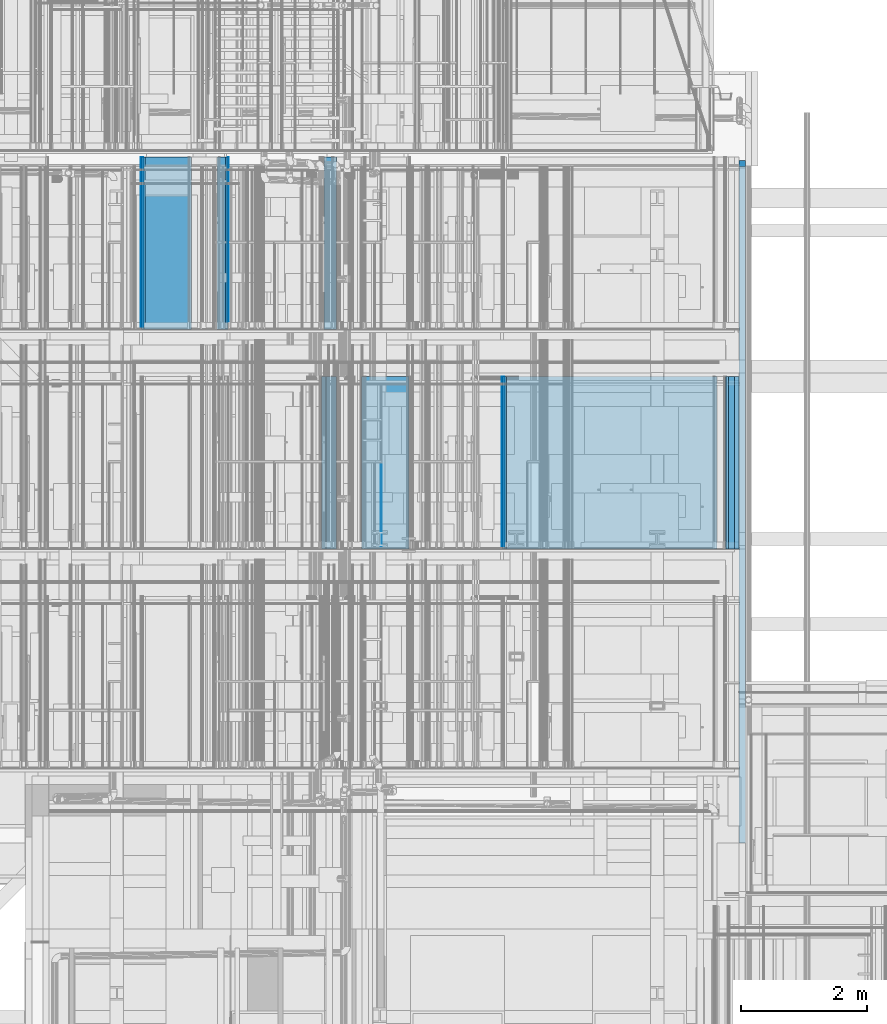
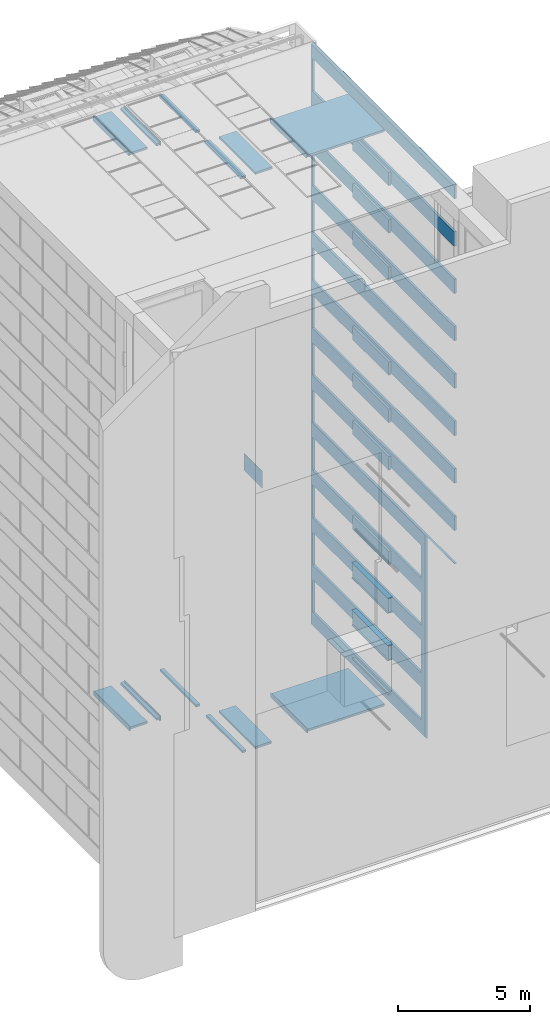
# One storey, part 18 of 583: 45 walls, 12 openings.
"""IFC2X3 building model written with IfcOpenShell, lengths in metres."""

from ifc_helpers import new_model, entity, si_unit, converted_unit, derived_unit, money_unit, direction, frame, frame_2d, origin_with_axes, place, context, subcontext, project, spatial, polyline, rectangle, outline, extrude, material, type_object, element, save


model = new_model("IFC2X3")

# Units and contexts
model_context = context("Model", 3, precision=1e-05, world=origin_with_axes(), true_north=direction((0.0, 1.0)))
body_context = subcontext(model_context, "Body", "Model", "MODEL_VIEW", scale=1.0)
ifc_project = project(units=[si_unit("LENGTHUNIT", "METRE"), si_unit("AREAUNIT", "SQUARE_METRE"), si_unit("VOLUMEUNIT", "CUBIC_METRE"), si_unit("ABSORBEDDOSEUNIT", "GRAY"), si_unit("AMOUNTOFSUBSTANCEUNIT", "MOLE"), si_unit("DOSEEQUIVALENTUNIT", "SIEVERT"), si_unit("ELECTRICCAPACITANCEUNIT", "FARAD"), si_unit("ELECTRICCHARGEUNIT", "COULOMB"), si_unit("ELECTRICCONDUCTANCEUNIT", "SIEMENS"), si_unit("ELECTRICCURRENTUNIT", "AMPERE"), si_unit("ELECTRICRESISTANCEUNIT", "OHM"), si_unit("ELECTRICVOLTAGEUNIT", "VOLT"), si_unit("ENERGYUNIT", "JOULE"), si_unit("FORCEUNIT", "NEWTON"), si_unit("FREQUENCYUNIT", "HERTZ"), si_unit("ILLUMINANCEUNIT", "LUX"), si_unit("INDUCTANCEUNIT", "HENRY"), si_unit("LUMINOUSFLUXUNIT", "LUMEN"), si_unit("LUMINOUSINTENSITYUNIT", "CANDELA"), si_unit("MAGNETICFLUXDENSITYUNIT", "TESLA"), si_unit("MAGNETICFLUXUNIT", "WEBER"), si_unit("MASSUNIT", "GRAM"), converted_unit("PLANEANGLEUNIT", "degree", entity("IfcReal", 0.0174532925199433), si_unit("PLANEANGLEUNIT", "RADIAN"), dimensions=[0, 0, 0, 0, 0, 0, 0]), si_unit("POWERUNIT", "WATT"), si_unit("PRESSUREUNIT", "PASCAL"), si_unit("RADIOACTIVITYUNIT", "BECQUEREL"), si_unit("SOLIDANGLEUNIT", "STERADIAN"), si_unit("THERMODYNAMICTEMPERATUREUNIT", "KELVIN"), si_unit("TIMEUNIT", "SECOND"), derived_unit("ACCELERATIONUNIT", [(si_unit("LENGTHUNIT", "METRE"), 1), (si_unit("TIMEUNIT", "SECOND"), -2)]), derived_unit("ANGULARVELOCITYUNIT", [(converted_unit("PLANEANGLEUNIT", "degree", entity("IfcReal", 0.0174532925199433), si_unit("PLANEANGLEUNIT", "RADIAN"), dimensions=[0, 0, 0, 0, 0, 0, 0]), 1), (si_unit("TIMEUNIT", "SECOND"), -1)]), derived_unit("CURVATUREUNIT", [(converted_unit("PLANEANGLEUNIT", "degree", entity("IfcReal", 0.0174532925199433), si_unit("PLANEANGLEUNIT", "RADIAN"), dimensions=[0, 0, 0, 0, 0, 0, 0]), 1), (si_unit("LENGTHUNIT", "METRE"), -1)]), derived_unit("DYNAMICVISCOSITYUNIT", [(si_unit("PRESSUREUNIT", "PASCAL"), 1), (si_unit("TIMEUNIT", "SECOND"), 1)]), derived_unit("HEATFLUXDENSITYUNIT", [(si_unit("POWERUNIT", "WATT"), 1), (si_unit("LENGTHUNIT", "METRE"), -2)]), derived_unit("HEATINGVALUEUNIT", [(si_unit("ENERGYUNIT", "JOULE"), 1), (si_unit("MASSUNIT", "GRAM"), -1)]), derived_unit("INTEGERCOUNTRATEUNIT", [(si_unit("TIMEUNIT", "SECOND"), -1)]), derived_unit("IONCONCENTRATIONUNIT", [(si_unit("MASSUNIT", "GRAM"), 1), (si_unit("VOLUMEUNIT", "CUBIC_METRE"), -1)]), derived_unit("ISOTHERMALMOISTURECAPACITYUNIT", [(si_unit("VOLUMEUNIT", "CUBIC_METRE"), 1), (si_unit("MASSUNIT", "GRAM"), -1)]), derived_unit("KINEMATICVISCOSITYUNIT", [(si_unit("AREAUNIT", "SQUARE_METRE"), 1), (si_unit("TIMEUNIT", "SECOND"), -1)]), derived_unit("LINEARFORCEUNIT", [(si_unit("FORCEUNIT", "NEWTON"), 1), (si_unit("LENGTHUNIT", "METRE"), -1)]), derived_unit("LINEARMOMENTUNIT", [(si_unit("FORCEUNIT", "NEWTON"), 1), (si_unit("LENGTHUNIT", "METRE"), -1)]), derived_unit("LINEARSTIFFNESSUNIT", [(si_unit("FORCEUNIT", "NEWTON"), 1), (si_unit("LENGTHUNIT", "METRE"), -1)]), derived_unit("LINEARVELOCITYUNIT", [(si_unit("LENGTHUNIT", "METRE"), 1), (si_unit("TIMEUNIT", "SECOND"), -1)]), derived_unit("LUMINOUSINTENSITYDISTRIBUTIONUNIT", [(si_unit("LUMINOUSINTENSITYUNIT", "CANDELA"), 1), (si_unit("LUMINOUSFLUXUNIT", "LUMEN"), -1)]), derived_unit("MASSDENSITYUNIT", [(si_unit("MASSUNIT", "GRAM"), 1), (si_unit("VOLUMEUNIT", "CUBIC_METRE"), -1)]), derived_unit("MASSFLOWRATEUNIT", [(si_unit("MASSUNIT", "GRAM"), 1), (si_unit("TIMEUNIT", "SECOND"), -1)]), derived_unit("MASSPERLENGTHUNIT", [(si_unit("MASSUNIT", "GRAM"), 1), (si_unit("LENGTHUNIT", "METRE"), -1)]), derived_unit("MODULUSOFELASTICITYUNIT", [(si_unit("FORCEUNIT", "NEWTON"), 1), (si_unit("AREAUNIT", "SQUARE_METRE"), -1)]), derived_unit("MODULUSOFLINEARSUBGRADEREACTIONUNIT", [(si_unit("FORCEUNIT", "NEWTON"), 1), (si_unit("LENGTHUNIT", "METRE"), -2)]), derived_unit("MODULUSOFROTATIONALSUBGRADEREACTIONUNIT", [(si_unit("FORCEUNIT", "NEWTON"), 1), (si_unit("LENGTHUNIT", "METRE"), 1)]), derived_unit("MODULUSOFSUBGRADEREACTIONUNIT", [(si_unit("FORCEUNIT", "NEWTON"), 1), (si_unit("VOLUMEUNIT", "CUBIC_METRE"), -1)]), derived_unit("MOISTUREDIFFUSIVITYUNIT", [(si_unit("VOLUMEUNIT", "CUBIC_METRE"), 1), (si_unit("TIMEUNIT", "SECOND"), -1)]), derived_unit("MOLECULARWEIGHTUNIT", [(si_unit("MASSUNIT", "GRAM"), 1), (si_unit("AMOUNTOFSUBSTANCEUNIT", "MOLE"), -1)]), derived_unit("PLANARFORCEUNIT", [(si_unit("FORCEUNIT", "NEWTON"), 1), (si_unit("LENGTHUNIT", "METRE"), -2)]), derived_unit("ROTATIONALFREQUENCYUNIT", [(si_unit("TIMEUNIT", "SECOND"), -1)]), derived_unit("ROTATIONALMASSUNIT", [(si_unit("MASSUNIT", "GRAM"), 1), (si_unit("LENGTHUNIT", "METRE"), 2)]), derived_unit("ROTATIONALSTIFFNESSUNIT", [(si_unit("FORCEUNIT", "NEWTON"), 1), (si_unit("LENGTHUNIT", "METRE"), 1), (converted_unit("PLANEANGLEUNIT", "degree", entity("IfcReal", 0.0174532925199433), si_unit("PLANEANGLEUNIT", "RADIAN"), dimensions=[0, 0, 0, 0, 0, 0, 0]), -1)]), derived_unit("SECTIONAREAINTEGRALUNIT", [(si_unit("LENGTHUNIT", "METRE"), 5)]), derived_unit("SECTIONMODULUSUNIT", [(si_unit("LENGTHUNIT", "METRE"), 3)]), derived_unit("SHEARMODULUSUNIT", [(si_unit("FORCEUNIT", "NEWTON"), 1), (si_unit("AREAUNIT", "SQUARE_METRE"), -1)]), derived_unit("SOUNDPOWERUNIT", [(si_unit("ENERGYUNIT", "JOULE"), 1), (si_unit("TIMEUNIT", "SECOND"), -1)]), derived_unit("SPECIFICHEATCAPACITYUNIT", [(si_unit("FORCEUNIT", "NEWTON"), 1), (si_unit("MASSUNIT", "GRAM"), -1), (si_unit("THERMODYNAMICTEMPERATUREUNIT", "KELVIN"), -1)]), derived_unit("TEMPERATUREGRADIENTUNIT", [(si_unit("THERMODYNAMICTEMPERATUREUNIT", "KELVIN"), 1), (si_unit("LENGTHUNIT", "METRE"), -1)]), derived_unit("THERMALADMITTANCEUNIT", [(si_unit("POWERUNIT", "WATT"), 1), (si_unit("AREAUNIT", "SQUARE_METRE"), -1), (si_unit("THERMODYNAMICTEMPERATUREUNIT", "KELVIN"), -1)]), derived_unit("THERMALCONDUCTANCEUNIT", [(si_unit("POWERUNIT", "WATT"), 1), (si_unit("LENGTHUNIT", "METRE"), -1), (si_unit("THERMODYNAMICTEMPERATUREUNIT", "KELVIN"), -1)]), derived_unit("THERMALEXPANSIONCOEFFICIENTUNIT", [(si_unit("THERMODYNAMICTEMPERATUREUNIT", "KELVIN"), -1)]), derived_unit("THERMALRESISTANCEUNIT", [(si_unit("AREAUNIT", "SQUARE_METRE"), 1), (si_unit("POWERUNIT", "WATT"), -1)]), derived_unit("THERMALTRANSMITTANCEUNIT", [(si_unit("POWERUNIT", "WATT"), 1), (si_unit("AREAUNIT", "SQUARE_METRE"), -1), (si_unit("THERMODYNAMICTEMPERATUREUNIT", "KELVIN"), -1)]), derived_unit("TORQUEUNIT", [(si_unit("FORCEUNIT", "NEWTON"), 1), (si_unit("LENGTHUNIT", "METRE"), 1)]), derived_unit("VAPORPERMEABILITYUNIT", [(si_unit("MASSUNIT", "GRAM"), 1), (si_unit("TIMEUNIT", "SECOND"), -1)]), derived_unit("VOLUMETRICFLOWRATEUNIT", [(si_unit("VOLUMEUNIT", "CUBIC_METRE"), 1), (si_unit("TIMEUNIT", "SECOND"), -1)]), derived_unit("WARPINGCONSTANTUNIT", [(si_unit("LENGTHUNIT", "METRE"), 6)]), derived_unit("WARPINGMOMENTUNIT", [(si_unit("FORCEUNIT", "NEWTON"), 1), (si_unit("LENGTHUNIT", "METRE"), 2)]), money_unit("GBP")], contexts=[model_context])

# Site, building, storey
site_placement = place(None, origin_with_axes())
site = spatial("IfcSite", under=ifc_project, at=site_placement, Name="Site", CompositionType="ELEMENT")
building_placement = place(site_placement, origin_with_axes())
building = spatial("IfcBuilding", under=site, at=building_placement, Name="Building01", CompositionType="ELEMENT")
storey_placement = place(building_placement, frame((0.0, 0.0, 20.78), z_axis=(0.0, 0.0, 1.0), x_axis=(1.0, 0.0, 0.0)))
storey = spatial("IfcBuildingStorey", under=building, at=storey_placement, Name="RL", CompositionType="ELEMENT", Elevation=20.78)

# Wall, openings
ifc_material_1 = material(Name="A_BSUK_WallsExternal_Brick")
wall_type_1 = type_object("IfcWallType", Name="A-Walls-ExternalBrick", PredefinedType="NOTDEFINED")
wall_1_placement = place(storey_placement, frame((14.9, 3.97, -11.336723), z_axis=(0.0, 1.0, 0.0), x_axis=(0.0, 0.0, 1.0)))
wall_1 = element("IfcWall", 1, at=wall_1_placement, inside=storey, type_object=wall_type_1, material=ifc_material_1, Name="A-Walls-ExternalBrick", ObjectType="A-Walls-ExternalBrick", context=body_context, shape_type="SweptSolid", body=[
    extrude(outline(polyline([(17.536723, 0.0), (0.0, 0.0), (0.0, -0.1), (17.436723, -0.1), (17.536723, 0.0)])), origin_with_axes(), (0.0, 0.0, 1.0), 10.850238),
])
opening_1_placement = place(wall_1_placement, frame((13.156723, -0.1, 0.0), z_axis=(0.0, 0.0, 1.0), x_axis=(1.0, 0.0, 0.0)))
element("IfcOpeningElement", 2, at=opening_1_placement, cuts=wall_1, Name="Opening", ObjectType="Opening", context=body_context, shape_type="SweptSolid", body=[
    extrude(rectangle(XDim=1.52, YDim=10.75, at=frame_2d((-0.76, 5.375), x_axis=(-1.0, 0.0))), frame((0.0, 0.0, 0.0), z_axis=(0.0, 1.0, 0.0), x_axis=(-1.0, 0.0, 0.0)), (0.0, 0.0, 1.0), 0.1),
])
opening_2_placement = place(wall_1_placement, frame((10.966723, -0.1, 0.0), z_axis=(0.0, 0.0, 1.0), x_axis=(1.0, 0.0, 0.0)))
element("IfcOpeningElement", 3, at=opening_2_placement, cuts=wall_1, Name="Opening", ObjectType="Opening", context=body_context, shape_type="SweptSolid", body=[
    extrude(rectangle(XDim=1.52, YDim=10.75, at=frame_2d((-0.76, 5.375), x_axis=(-1.0, 0.0))), frame((0.0, 0.0, 0.0), z_axis=(0.0, 1.0, 0.0), x_axis=(-1.0, 0.0, 0.0)), (0.0, 0.0, 1.0), 0.1),
])
opening_3_placement = place(wall_1_placement, frame((8.776723, -0.1, 0.0), z_axis=(0.0, 0.0, 1.0), x_axis=(1.0, 0.0, 0.0)))
element("IfcOpeningElement", 4, at=opening_3_placement, cuts=wall_1, Name="Opening", ObjectType="Opening", context=body_context, shape_type="SweptSolid", body=[
    extrude(rectangle(XDim=1.52, YDim=10.75, at=frame_2d((-0.76, 5.375), x_axis=(-1.0, 0.0))), frame((0.0, 0.0, 0.0), z_axis=(0.0, 1.0, 0.0), x_axis=(-1.0, 0.0, 0.0)), (0.0, 0.0, 1.0), 0.1),
])
opening_4_placement = place(wall_1_placement, frame((6.586723, -0.1, 0.0), z_axis=(0.0, 0.0, 1.0), x_axis=(1.0, 0.0, 0.0)))
element("IfcOpeningElement", 5, at=opening_4_placement, cuts=wall_1, Name="Opening", ObjectType="Opening", context=body_context, shape_type="SweptSolid", body=[
    extrude(rectangle(XDim=1.52, YDim=10.75, at=frame_2d((-0.76, 5.375), x_axis=(-1.0, 0.0))), frame((0.0, 0.0, 0.0), z_axis=(0.0, 1.0, 0.0), x_axis=(-1.0, 0.0, 0.0)), (0.0, 0.0, 1.0), 0.1),
])
opening_5_placement = place(wall_1_placement, frame((4.396723, -0.1, 0.0), z_axis=(0.0, 0.0, 1.0), x_axis=(1.0, 0.0, 0.0)))
element("IfcOpeningElement", 6, at=opening_5_placement, cuts=wall_1, Name="Opening", ObjectType="Opening", context=body_context, shape_type="SweptSolid", body=[
    extrude(rectangle(XDim=1.52, YDim=10.75, at=frame_2d((-0.76, 5.375), x_axis=(-1.0, 0.0))), frame((0.0, 0.0, 0.0), z_axis=(0.0, 1.0, 0.0), x_axis=(-1.0, 0.0, 0.0)), (0.0, 0.0, 1.0), 0.1),
])
opening_6_placement = place(wall_1_placement, frame((2.206723, -0.1, 0.0), z_axis=(0.0, 0.0, 1.0), x_axis=(1.0, 0.0, 0.0)))
element("IfcOpeningElement", 7, at=opening_6_placement, cuts=wall_1, Name="Opening", ObjectType="Opening", context=body_context, shape_type="SweptSolid", body=[
    extrude(rectangle(XDim=1.52, YDim=10.75, at=frame_2d((-0.76, 5.375), x_axis=(-1.0, 0.0))), frame((0.0, 0.0, 0.0), z_axis=(0.0, 1.0, 0.0), x_axis=(-1.0, 0.0, 0.0)), (0.0, 0.0, 1.0), 0.1),
])
opening_7_placement = place(wall_1_placement, frame((0.016723, -0.1, 0.0), z_axis=(0.0, 0.0, 1.0), x_axis=(1.0, 0.0, 0.0)))
element("IfcOpeningElement", 8, at=opening_7_placement, cuts=wall_1, Name="Opening", ObjectType="Opening", context=body_context, shape_type="SweptSolid", body=[
    extrude(rectangle(XDim=1.52, YDim=10.75, at=frame_2d((-0.76, 5.375), x_axis=(-1.0, 0.0))), frame((0.0, 0.0, 0.0), z_axis=(0.0, 1.0, 0.0), x_axis=(-1.0, 0.0, 0.0)), (0.0, 0.0, 1.0), 0.1),
])
opening_8_placement = place(wall_1_placement, frame((15.346723, -0.1, 0.0), z_axis=(0.0, 0.0, 1.0), x_axis=(1.0, 0.0, 0.0)))
element("IfcOpeningElement", 9, at=opening_8_placement, cuts=wall_1, Name="Opening", ObjectType="Opening", context=body_context, shape_type="SweptSolid", body=[
    extrude(rectangle(XDim=1.52, YDim=10.75, at=frame_2d((-0.76, 5.375), x_axis=(-1.0, 0.0))), frame((0.0, 0.0, 0.0), z_axis=(0.0, 1.0, 0.0), x_axis=(-1.0, 0.0, 0.0)), (0.0, 0.0, 1.0), 0.1),
])

wall_2_placement = place(storey_placement, frame((14.9, 6.185, -11.336723), z_axis=(0.0, 1.0, 0.0), x_axis=(0.0, 0.0, -1.0)))
wall_2 = element("IfcWall", 10, at=wall_2_placement, inside=storey, type_object=wall_type_1, material=ifc_material_1, Name="A-Walls-ExternalBrick", ObjectType="A-Walls-ExternalBrick", context=body_context, shape_type="SweptSolid", body=[
    extrude(outline(polyline([(9.343277, 0.1), (0.0, 0.1), (0.0, 0.0), (9.443277, 0.0), (9.343277, 0.1)])), origin_with_axes(), (0.0, 0.0, 1.0), 8.635238),
])
opening_9_placement = place(wall_2_placement, frame((0.653277, 0.1, 0.315918), z_axis=(0.0, 0.0, 1.0), x_axis=(1.0, 0.0, 0.0)))
element("IfcOpeningElement", 11, at=opening_9_placement, cuts=wall_2, Name="Opening", ObjectType="Opening", context=body_context, shape_type="SweptSolid", body=[
    extrude(rectangle(XDim=1.52, YDim=8.2, at=frame_2d((0.76, 4.1), x_axis=(-1.0, 0.0))), frame((0.0, 0.0, 0.0), z_axis=(0.0, -1.0, 0.0), x_axis=(1.0, 0.0, 0.0)), (0.0, 0.0, 1.0), 0.1),
])
opening_10_placement = place(wall_2_placement, frame((2.843277, 0.1, 0.315918), z_axis=(0.0, 0.0, 1.0), x_axis=(1.0, 0.0, 0.0)))
element("IfcOpeningElement", 12, at=opening_10_placement, cuts=wall_2, Name="Opening", ObjectType="Opening", context=body_context, shape_type="SweptSolid", body=[
    extrude(rectangle(XDim=1.52, YDim=8.2, at=frame_2d((0.76, 4.1), x_axis=(-1.0, 0.0))), frame((0.0, 0.0, 0.0), z_axis=(0.0, -1.0, 0.0), x_axis=(1.0, 0.0, 0.0)), (0.0, 0.0, 1.0), 0.1),
])
opening_11_placement = place(wall_2_placement, frame((5.033277, 0.1, 0.315918), z_axis=(0.0, 0.0, 1.0), x_axis=(1.0, 0.0, 0.0)))
element("IfcOpeningElement", 13, at=opening_11_placement, cuts=wall_2, Name="Opening", ObjectType="Opening", context=body_context, shape_type="SweptSolid", body=[
    extrude(rectangle(XDim=1.52, YDim=8.2, at=frame_2d((0.76, 4.1), x_axis=(-1.0, 0.0))), frame((0.0, 0.0, 0.0), z_axis=(0.0, -1.0, 0.0), x_axis=(1.0, 0.0, 0.0)), (0.0, 0.0, 1.0), 0.1),
])
opening_12_placement = place(wall_2_placement, frame((7.223277, 0.1, 0.315918), z_axis=(0.0, 0.0, 1.0), x_axis=(1.0, 0.0, 0.0)))
element("IfcOpeningElement", 14, at=opening_12_placement, cuts=wall_2, Name="Opening", ObjectType="Opening", context=body_context, shape_type="SweptSolid", body=[
    extrude(rectangle(XDim=1.52, YDim=8.2, at=frame_2d((0.76, 4.1), x_axis=(-1.0, 0.0))), frame((0.0, 0.0, 0.0), z_axis=(0.0, -1.0, 0.0), x_axis=(1.0, 0.0, 0.0)), (0.0, 0.0, 1.0), 0.1),
])

# Walls
ifc_material_2 = material(Name="A_BSUK_WallsExternal_Block")
wall_type_2 = type_object("IfcWallType", Name="A-Walls-ExternalBlock", PredefinedType="NOTDEFINED")
wall_3_placement = place(storey_placement, frame((8.4, 12.13, -20.61), z_axis=(0.0, 1.0, 0.0), x_axis=(-1.0, 0.0, 0.0)))
element("IfcWall", 15, at=wall_3_placement, inside=storey, type_object=wall_type_2, material=ifc_material_2, Name="A-Walls-ExternalBlock", ObjectType="A-Walls-ExternalBlock", context=body_context, shape_type="SweptSolid", body=[
    extrude(rectangle(XDim=0.167, YDim=0.1, at=frame_2d((0.0835, 0.05), x_axis=(-1.0, 0.0))), origin_with_axes(), (0.0, 0.0, 1.0), 2.74),
])
wall_4_placement = place(storey_placement, frame((6.64418, 12.13, -20.61), z_axis=(0.0, 1.0, 0.0), x_axis=(-1.0, 0.0, 0.0)))
element("IfcWall", 16, at=wall_4_placement, inside=storey, type_object=wall_type_2, material=ifc_material_2, Name="A-Walls-ExternalBlock", ObjectType="A-Walls-ExternalBlock", context=body_context, shape_type="SweptSolid", body=[
    extrude(rectangle(XDim=0.14418, YDim=0.1, at=frame_2d((0.07209, 0.05), x_axis=(1.0, 0.0))), origin_with_axes(), (0.0, 0.0, 1.0), 2.74),
])
wall_5_placement = place(storey_placement, frame((6.1, 12.13, -20.61), z_axis=(0.0, 1.0, 0.0), x_axis=(-1.0, 0.0, 0.0)))
element("IfcWall", 17, at=wall_5_placement, inside=storey, type_object=wall_type_2, material=ifc_material_2, Name="A-Walls-ExternalBlock", ObjectType="A-Walls-ExternalBlock", context=body_context, shape_type="SweptSolid", body=[
    extrude(rectangle(XDim=0.737, YDim=0.1, at=frame_2d((0.3685, 0.05), x_axis=(1.0, 0.0))), origin_with_axes(), (0.0, 0.0, 1.0), 2.74),
])
wall_6_placement = place(storey_placement, frame((6.634326, 12.13, 5.93), z_axis=(0.0, 1.0, 0.0), x_axis=(-1.0, 0.0, 0.0)))
element("IfcWall", 18, at=wall_6_placement, inside=storey, type_object=wall_type_2, material=ifc_material_2, Name="A-Walls-ExternalBlock", ObjectType="A-Walls-ExternalBlock", context=body_context, shape_type="SweptSolid", body=[
    extrude(rectangle(XDim=0.134326, YDim=0.1, at=frame_2d((0.067163, 0.05), x_axis=(1.0, 0.0))), origin_with_axes(), (0.0, 0.0, 1.0), 2.74),
])
wall_7_placement = place(storey_placement, frame((8.4, 12.13, 5.93), z_axis=(0.0, 1.0, 0.0), x_axis=(-1.0, 0.0, 0.0)))
element("IfcWall", 19, at=wall_7_placement, inside=storey, type_object=wall_type_2, material=ifc_material_2, Name="A-Walls-ExternalBlock", ObjectType="A-Walls-ExternalBlock", context=body_context, shape_type="SweptSolid", body=[
    extrude(rectangle(XDim=0.199674, YDim=0.1, at=frame_2d((0.099837, 0.05), x_axis=(-1.0, 0.0))), origin_with_axes(), (0.0, 0.0, 1.0), 2.74),
])
wall_8_placement = place(storey_placement, frame((6.1, 12.13, 5.93), z_axis=(0.0, 1.0, 0.0), x_axis=(-1.0, 0.0, 0.0)))
element("IfcWall", 20, at=wall_8_placement, inside=storey, type_object=wall_type_2, material=ifc_material_2, Name="A-Walls-ExternalBlock", ObjectType="A-Walls-ExternalBlock", context=body_context, shape_type="SweptSolid", body=[
    extrude(rectangle(XDim=0.75982, YDim=0.1, at=frame_2d((0.37991, 0.05), x_axis=(1.0, 0.0))), origin_with_axes(), (0.0, 0.0, 1.0), 2.74),
])
wall_9_placement = place(storey_placement, frame((14.63, 8.64, -20.18), z_axis=(0.0, 1.0, 0.0), x_axis=(0.0, 0.0, 1.0)))
element("IfcWall", 21, at=wall_9_placement, inside=storey, type_object=wall_type_2, material=ifc_material_2, Name="A-Walls-ExternalBlock", ObjectType="A-Walls-ExternalBlock", context=body_context, shape_type="SweptSolid", body=[
    extrude(rectangle(XDim=0.077, YDim=0.1, at=frame_2d((0.0385, 0.05), x_axis=(1.0, 0.0))), origin_with_axes(), (0.0, 0.0, 1.0), 2.74),
])
wall_10_placement = place(storey_placement, frame((14.45, 8.64, -20.61), z_axis=(0.0, 1.0, 0.0), x_axis=(-1.0, 0.0, 0.0)))
element("IfcWall", 22, at=wall_10_placement, inside=storey, type_object=wall_type_2, material=ifc_material_2, Name="A-Walls-ExternalBlock", ObjectType="A-Walls-ExternalBlock", context=body_context, shape_type="SweptSolid", body=[
    extrude(rectangle(XDim=3.347, YDim=0.1, at=frame_2d((1.6735, 0.05), x_axis=(1.0, 0.0))), origin_with_axes(), (0.0, 0.0, 1.0), 2.74),
])
wall_11_placement = place(storey_placement, frame((9.51418, 8.64, -20.61), z_axis=(0.0, 1.0, 0.0), x_axis=(-1.0, 0.0, 0.0)))
element("IfcWall", 23, at=wall_11_placement, inside=storey, type_object=wall_type_2, material=ifc_material_2, Name="A-Walls-ExternalBlock", ObjectType="A-Walls-ExternalBlock", context=body_context, shape_type="SweptSolid", body=[
    extrude(rectangle(XDim=0.1, YDim=0.71418, at=frame_2d((0.35709, 0.05), x_axis=(0.0, -1.0))), origin_with_axes(), (0.0, 0.0, 1.0), 2.74),
])
wall_12_placement = place(storey_placement, frame((8.4, 8.64, -20.61), z_axis=(0.0, 1.0, 0.0), x_axis=(-1.0, 0.0, 0.0)))
element("IfcWall", 24, at=wall_12_placement, inside=storey, type_object=wall_type_2, material=ifc_material_2, Name="A-Walls-ExternalBlock", ObjectType="A-Walls-ExternalBlock", context=body_context, shape_type="SweptSolid", body=[
    extrude(rectangle(XDim=0.167, YDim=0.1, at=frame_2d((0.0835, 0.05), x_axis=(-1.0, 0.0))), origin_with_axes(), (0.0, 0.0, 1.0), 2.74),
])
for number, where, z_axis, x_axis, name in (
    (25, (14.63, 8.64, -18.537), (0.0, 1.0, 0.0), (0.0, 0.0, 1.0), "A-Walls-ExternalBlock"),
    (26, (14.63, 8.64, -16.347), (0.0, 1.0, 0.0), (0.0, 0.0, 1.0), "A-Walls-ExternalBlock"),
):
    element("IfcWall", number, at=place(storey_placement, frame(where, z_axis=z_axis, x_axis=x_axis)), inside=storey, type_object=wall_type_2, material=ifc_material_2, Name=name, ObjectType="A-Walls-ExternalBlock", context=body_context, shape_type="SweptSolid", body=[
        extrude(rectangle(XDim=0.624, YDim=0.1, at=frame_2d((0.312, 0.05), x_axis=(1.0, 0.0))), origin_with_axes(), (0.0, 0.0, 1.0), 2.74),
    ])
wall_13_placement = place(storey_placement, frame((14.63, 8.64, -14.157124), z_axis=(0.0, 1.0, 0.0), x_axis=(0.0, 0.0, 1.0)))
element("IfcWall", 27, at=wall_13_placement, inside=storey, type_object=wall_type_2, material=ifc_material_2, Name="A-Walls-ExternalBlock", ObjectType="A-Walls-ExternalBlock", context=body_context, shape_type="SweptSolid", body=[
    extrude(rectangle(XDim=0.624124, YDim=0.1, at=frame_2d((0.312062, 0.05), x_axis=(-1.0, 0.0))), origin_with_axes(), (0.0, 0.0, 1.0), 2.74),
])
for number, where, z_axis, x_axis, name in (
    (28, (14.63, 8.64, -9.777), (0.0, 1.0, 0.0), (0.0, 0.0, 1.0), "A-Walls-ExternalBlock"),
    (29, (14.63, 8.64, -7.587), (0.0, 1.0, 0.0), (0.0, 0.0, 1.0), "A-Walls-ExternalBlock"),
    (30, (14.63, 8.64, -5.397), (0.0, 1.0, 0.0), (0.0, 0.0, 1.0), "A-Walls-ExternalBlock"),
    (31, (14.63, 8.64, -1.017), (0.0, 1.0, 0.0), (0.0, 0.0, 1.0), "A-Walls-ExternalBlock"),
    (32, (14.63, 8.64, 1.173), (0.0, 1.0, 0.0), (0.0, 0.0, 1.0), "A-Walls-ExternalBlock"),
    (33, (14.63, 8.64, 3.363), (0.0, 1.0, 0.0), (0.0, 0.0, 1.0), "A-Walls-ExternalBlock"),
):
    element("IfcWall", number, at=place(storey_placement, frame(where, z_axis=z_axis, x_axis=x_axis)), inside=storey, type_object=wall_type_2, material=ifc_material_2, Name=name, ObjectType="A-Walls-ExternalBlock", context=body_context, shape_type="SweptSolid", body=[
        extrude(rectangle(XDim=0.624, YDim=0.1, at=frame_2d((0.312, 0.05), x_axis=(1.0, 0.0))), origin_with_axes(), (0.0, 0.0, 1.0), 2.74),
    ])
wall_14_placement = place(storey_placement, frame((9.55018, 8.64, 5.93), z_axis=(0.0, 1.0, 0.0), x_axis=(-1.0, 0.0, 0.0)))
element("IfcWall", 34, at=wall_14_placement, inside=storey, type_object=wall_type_2, material=ifc_material_2, Name="A-Walls-ExternalBlock", ObjectType="A-Walls-ExternalBlock", context=body_context, shape_type="SweptSolid", body=[
    extrude(rectangle(XDim=0.1, YDim=0.75018, at=frame_2d((0.37509, 0.05), x_axis=(0.0, -1.0))), origin_with_axes(), (0.0, 0.0, 1.0), 2.74),
])
wall_15_placement = place(storey_placement, frame((8.4, 8.64, 5.93), z_axis=(0.0, 1.0, 0.0), x_axis=(-1.0, 0.0, 0.0)))
element("IfcWall", 35, at=wall_15_placement, inside=storey, type_object=wall_type_2, material=ifc_material_2, Name="A-Walls-ExternalBlock", ObjectType="A-Walls-ExternalBlock", context=body_context, shape_type="SweptSolid", body=[
    extrude(rectangle(XDim=0.235674, YDim=0.1, at=frame_2d((0.117837, 0.05), x_axis=(-1.0, 0.0))), origin_with_axes(), (0.0, 0.0, 1.0), 2.74),
])
wall_16_placement = place(storey_placement, frame((14.45, 8.64, 5.93), z_axis=(0.0, 1.0, 0.0), x_axis=(-1.0, 0.0, 0.0)))
element("IfcWall", 36, at=wall_16_placement, inside=storey, type_object=wall_type_2, material=ifc_material_2, Name="A-Walls-ExternalBlock", ObjectType="A-Walls-ExternalBlock", context=body_context, shape_type="SweptSolid", body=[
    extrude(rectangle(XDim=3.36982, YDim=0.1, at=frame_2d((1.68491, 0.05), x_axis=(1.0, 0.0))), origin_with_axes(), (0.0, 0.0, 1.0), 2.74),
])
ifc_material_3 = material(Name="A_BSUK_WallInternal_Finishes_Plasterboard")
wall_type_3 = type_object("IfcWallType", Name="default", PredefinedType="NOTDEFINED")
wall_17_placement = place(storey_placement, frame((6.67918, 12.13, -20.68), z_axis=(0.0, 1.0, 0.0), x_axis=(0.0, 0.0, 1.0)))
element("IfcWall", 37, at=wall_17_placement, inside=storey, type_object=wall_type_3, material=ifc_material_3, Name="default", ObjectType="default", context=body_context, shape_type="SweptSolid", body=[
    extrude(outline(polyline([(0.218, 0.013), (0.0, 0.013), (0.0, 0.0), (0.205, 0.0), (0.218, 0.013)])), origin_with_axes(), (0.0, 0.0, 1.0), 2.74),
])
ifc_material_4 = material(Name="A_BSUK_Insulation")
wall_18_placement = place(storey_placement, frame((6.64418, 12.13, -20.68), z_axis=(0.0, 1.0, 0.0), x_axis=(0.0, 0.0, 1.0)))
element("IfcWall", 38, at=wall_18_placement, inside=storey, type_object=wall_type_3, material=ifc_material_4, Name="default", ObjectType="default", context=body_context, shape_type="SweptSolid", body=[
    extrude(outline(polyline([(0.206, 0.036), (0.0, 0.036), (0.0, 0.0), (0.17, 0.0), (0.206, 0.036)])), origin_with_axes(), (0.0, 0.0, 1.0), 2.74),
])
wall_19_placement = place(storey_placement, frame((5.328, 12.13, -20.475), z_axis=(0.0, 1.0, 0.0), x_axis=(0.0, 0.0, -1.0)))
element("IfcWall", 39, at=wall_19_placement, inside=storey, type_object=wall_type_3, material=ifc_material_3, Name="default", ObjectType="default", context=body_context, shape_type="SweptSolid", body=[
    extrude(outline(polyline([(-0.013, 0.013), (0.0, 0.0), (0.205, 0.0), (0.205, 0.013), (-0.013, 0.013)])), origin_with_axes(), (0.0, 0.0, 1.0), 2.74),
])
wall_20_placement = place(storey_placement, frame((5.363, 12.13, -20.51), z_axis=(0.0, 1.0, 0.0), x_axis=(0.0, 0.0, -1.0)))
element("IfcWall", 40, at=wall_20_placement, inside=storey, type_object=wall_type_3, material=ifc_material_4, Name="default", ObjectType="default", context=body_context, shape_type="SweptSolid", body=[
    extrude(outline(polyline([(-0.036, 0.036), (0.0, 0.0), (0.17, 0.0), (0.17, 0.036), (-0.036, 0.036)])), origin_with_axes(), (0.0, 0.0, 1.0), 2.74),
])
wall_21_placement = place(storey_placement, frame((5.30518, 12.13, 6.1), z_axis=(0.0, 1.0, 0.0), x_axis=(0.0, 0.0, -1.0)))
element("IfcWall", 41, at=wall_21_placement, inside=storey, type_object=wall_type_3, material=ifc_material_3, Name="default", ObjectType="default", context=body_context, shape_type="SweptSolid", body=[
    extrude(outline(polyline([(0.218, 0.013), (0.0, 0.013), (0.0, 0.0), (0.205, 0.0), (0.218, 0.013)])), origin_with_axes(), (0.0, 0.0, 1.0), 2.74),
])
wall_22_placement = place(storey_placement, frame((5.34018, 12.13, 6.1), z_axis=(0.0, 1.0, 0.0), x_axis=(0.0, 0.0, -1.0)))
element("IfcWall", 42, at=wall_22_placement, inside=storey, type_object=wall_type_3, material=ifc_material_4, Name="default", ObjectType="default", context=body_context, shape_type="SweptSolid", body=[
    extrude(outline(polyline([(0.206, 0.036), (0.0, 0.036), (0.0, 0.0), (0.17, 0.0), (0.206, 0.036)])), origin_with_axes(), (0.0, 0.0, 1.0), 2.74),
])
wall_23_placement = place(storey_placement, frame((6.669326, 12.13, 5.895), z_axis=(0.0, 1.0, 0.0), x_axis=(0.0, 0.0, 1.0)))
element("IfcWall", 43, at=wall_23_placement, inside=storey, type_object=wall_type_3, material=ifc_material_3, Name="default", ObjectType="default", context=body_context, shape_type="SweptSolid", body=[
    extrude(outline(polyline([(-0.013, 0.013), (0.0, 0.0), (0.205, 0.0), (0.205, 0.013), (-0.013, 0.013)])), origin_with_axes(), (0.0, 0.0, 1.0), 2.74),
])
wall_24_placement = place(storey_placement, frame((6.634326, 12.13, 5.93), z_axis=(0.0, 1.0, 0.0), x_axis=(0.0, 0.0, 1.0)))
element("IfcWall", 44, at=wall_24_placement, inside=storey, type_object=wall_type_3, material=ifc_material_4, Name="default", ObjectType="default", context=body_context, shape_type="SweptSolid", body=[
    extrude(outline(polyline([(-0.036, 0.036), (0.0, 0.0), (0.17, 0.0), (0.17, 0.036), (-0.036, 0.036)])), origin_with_axes(), (0.0, 0.0, 1.0), 2.74),
])
wall_25_placement = place(storey_placement, frame((11.068, 8.64, -20.475), z_axis=(0.0, 1.0, 0.0), x_axis=(0.0, 0.0, -1.0)))
element("IfcWall", 45, at=wall_25_placement, inside=storey, type_object=wall_type_3, material=ifc_material_3, Name="default", ObjectType="default", context=body_context, shape_type="SweptSolid", body=[
    extrude(outline(polyline([(-0.013, 0.013), (0.0, 0.0), (0.205, 0.0), (0.205, 0.013), (-0.013, 0.013)])), origin_with_axes(), (0.0, 0.0, 1.0), 2.74),
])
wall_26_placement = place(storey_placement, frame((11.103, 8.64, -20.51), z_axis=(0.0, 1.0, 0.0), x_axis=(0.0, 0.0, -1.0)))
element("IfcWall", 46, at=wall_26_placement, inside=storey, type_object=wall_type_3, material=ifc_material_4, Name="default", ObjectType="default", context=body_context, shape_type="SweptSolid", body=[
    extrude(outline(polyline([(-0.036, 0.036), (0.0, 0.0), (0.17, 0.0), (0.17, 0.036), (-0.036, 0.036)])), origin_with_axes(), (0.0, 0.0, 1.0), 2.74),
])
wall_27_placement = place(storey_placement, frame((14.8, 8.64, -17.878), z_axis=(0.0, 1.0, 0.0), x_axis=(-1.0, 0.0, 0.0)))
element("IfcWall", 47, at=wall_27_placement, inside=storey, type_object=wall_type_3, material=ifc_material_3, Name="default", ObjectType="default", context=body_context, shape_type="SweptSolid", body=[
    extrude(outline(polyline([(0.218, 0.013), (0.0, 0.013), (0.0, 0.0), (0.205, 0.0), (0.218, 0.013)])), origin_with_axes(), (0.0, 0.0, 1.0), 2.74),
])
wall_28_placement = place(storey_placement, frame((14.8, 8.64, -17.913), z_axis=(0.0, 1.0, 0.0), x_axis=(-1.0, 0.0, 0.0)))
element("IfcWall", 48, at=wall_28_placement, inside=storey, type_object=wall_type_3, material=ifc_material_4, Name="default", ObjectType="default", context=body_context, shape_type="SweptSolid", body=[
    extrude(outline(polyline([(0.206, 0.036), (0.0, 0.036), (0.0, 0.0), (0.17, 0.0), (0.206, 0.036)])), origin_with_axes(), (0.0, 0.0, 1.0), 2.74),
])
wall_29_placement = place(storey_placement, frame((14.595, 8.64, -18.572), z_axis=(0.0, 1.0, 0.0), x_axis=(1.0, 0.0, 0.0)))
element("IfcWall", 49, at=wall_29_placement, inside=storey, type_object=wall_type_3, material=ifc_material_3, Name="default", ObjectType="default", context=body_context, shape_type="SweptSolid", body=[
    extrude(outline(polyline([(-0.013, 0.013), (0.0, 0.0), (0.205, 0.0), (0.205, 0.013), (-0.013, 0.013)])), origin_with_axes(), (0.0, 0.0, 1.0), 2.74),
])
wall_30_placement = place(storey_placement, frame((14.63, 8.64, -18.537), z_axis=(0.0, 1.0, 0.0), x_axis=(1.0, 0.0, 0.0)))
element("IfcWall", 50, at=wall_30_placement, inside=storey, type_object=wall_type_3, material=ifc_material_4, Name="default", ObjectType="default", context=body_context, shape_type="SweptSolid", body=[
    extrude(outline(polyline([(-0.036, 0.036), (0.0, 0.0), (0.17, 0.0), (0.17, 0.036), (-0.036, 0.036)])), origin_with_axes(), (0.0, 0.0, 1.0), 2.74),
])
wall_31_placement = place(storey_placement, frame((14.8, 8.64, -15.688), z_axis=(0.0, 1.0, 0.0), x_axis=(-1.0, 0.0, 0.0)))
element("IfcWall", 51, at=wall_31_placement, inside=storey, type_object=wall_type_3, material=ifc_material_3, Name="default", ObjectType="default", context=body_context, shape_type="SweptSolid", body=[
    extrude(outline(polyline([(0.218, 0.013), (0.0, 0.013), (0.0, 0.0), (0.205, 0.0), (0.218, 0.013)])), origin_with_axes(), (0.0, 0.0, 1.0), 2.74),
])
wall_32_placement = place(storey_placement, frame((14.8, 8.64, -15.723), z_axis=(0.0, 1.0, 0.0), x_axis=(-1.0, 0.0, 0.0)))
element("IfcWall", 52, at=wall_32_placement, inside=storey, type_object=wall_type_3, material=ifc_material_4, Name="default", ObjectType="default", context=body_context, shape_type="SweptSolid", body=[
    extrude(outline(polyline([(0.206, 0.036), (0.0, 0.036), (0.0, 0.0), (0.17, 0.0), (0.206, 0.036)])), origin_with_axes(), (0.0, 0.0, 1.0), 2.74),
])
wall_33_placement = place(storey_placement, frame((14.595, 8.64, -16.382), z_axis=(0.0, 1.0, 0.0), x_axis=(1.0, 0.0, 0.0)))
element("IfcWall", 53, at=wall_33_placement, inside=storey, type_object=wall_type_3, material=ifc_material_3, Name="default", ObjectType="default", context=body_context, shape_type="SweptSolid", body=[
    extrude(outline(polyline([(-0.013, 0.013), (0.0, 0.0), (0.205, 0.0), (0.205, 0.013), (-0.013, 0.013)])), origin_with_axes(), (0.0, 0.0, 1.0), 2.74),
])
wall_34_placement = place(storey_placement, frame((14.63, 8.64, -16.347), z_axis=(0.0, 1.0, 0.0), x_axis=(1.0, 0.0, 0.0)))
element("IfcWall", 54, at=wall_34_placement, inside=storey, type_object=wall_type_3, material=ifc_material_4, Name="default", ObjectType="default", context=body_context, shape_type="SweptSolid", body=[
    extrude(outline(polyline([(-0.036, 0.036), (0.0, 0.0), (0.17, 0.0), (0.17, 0.036), (-0.036, 0.036)])), origin_with_axes(), (0.0, 0.0, 1.0), 2.74),
])
wall_35_placement = place(storey_placement, frame((11.04518, 8.64, 6.1), z_axis=(0.0, 1.0, 0.0), x_axis=(0.0, 0.0, -1.0)))
element("IfcWall", 55, at=wall_35_placement, inside=storey, type_object=wall_type_3, material=ifc_material_3, Name="default", ObjectType="default", context=body_context, shape_type="SweptSolid", body=[
    extrude(outline(polyline([(0.218, 0.013), (0.0, 0.013), (0.0, 0.0), (0.205, 0.0), (0.218, 0.013)])), origin_with_axes(), (0.0, 0.0, 1.0), 2.74),
])
wall_36_placement = place(storey_placement, frame((11.08018, 8.64, 6.1), z_axis=(0.0, 1.0, 0.0), x_axis=(0.0, 0.0, -1.0)))
element("IfcWall", 56, at=wall_36_placement, inside=storey, type_object=wall_type_3, material=ifc_material_4, Name="default", ObjectType="default", context=body_context, shape_type="SweptSolid", body=[
    extrude(outline(polyline([(0.206, 0.036), (0.0, 0.036), (0.0, 0.0), (0.17, 0.0), (0.206, 0.036)])), origin_with_axes(), (0.0, 0.0, 1.0), 2.74),
])
ifc_material_5 = material(Name="A_BSUK_Walls_Timber")
wall_37_placement = place(storey_placement, frame((9.105, 8.64, -8.676129), z_axis=(0.0, 1.0, 0.0), x_axis=(0.0, 0.0, 1.0)))
element("IfcWall", 57, at=wall_37_placement, inside=storey, type_object=wall_type_3, material=ifc_material_5, Name="default", ObjectType="default", context=body_context, shape_type="SweptSolid", body=[
    extrude(rectangle(XDim=0.774714, YDim=0.015, at=frame_2d((0.387357, 0.0075), x_axis=(-1.0, 0.0))), origin_with_axes(), (0.0, 0.0, 1.0), 1.375),
])

save(model, "model.ifc")
